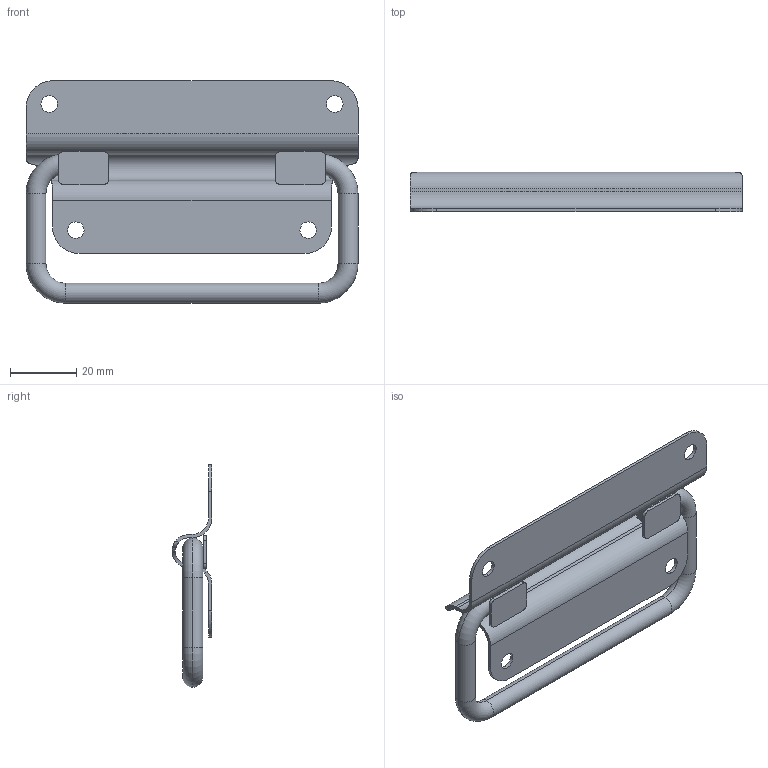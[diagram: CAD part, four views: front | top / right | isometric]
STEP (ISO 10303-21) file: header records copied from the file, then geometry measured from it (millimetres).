
FILE_DESCRIPTION (( 'STEP AP214' ), '1' );
FILE_NAME ('LS020.STEP', '2023-06-28T01:41:37', ( 'Windows 蚚誧' ), ( '' ), 'SwSTEP 2.0', 'SolidWorks 2019', '' );
FILE_SCHEMA (( 'AUTOMOTIVE_DESIGN' ));
Length unit declared in the file: millimetre
Products named in the file (1): LS020
Bounding box: 100 x 12 x 67 mm (x, y, z)
Volume: 11688.1 mm3; surface area: 16551.4 mm2
Topology: 2 solids, 2 shells, 80 faces, 198 edges, 124 vertices
Faces by surface type: cylinder 36, plane 30, torus 8, bspline 6
Entity records: 4243 total; most frequent: CARTESIAN_POINT 1409, DIRECTION 402, ORIENTED_EDGE 396, EDGE_CURVE 198, AXIS2_PLACEMENT_3D 155, VERTEX_POINT 124, LINE 92, VECTOR 92
